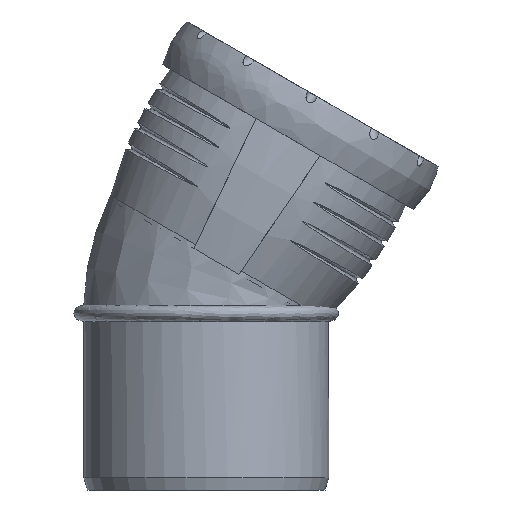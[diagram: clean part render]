
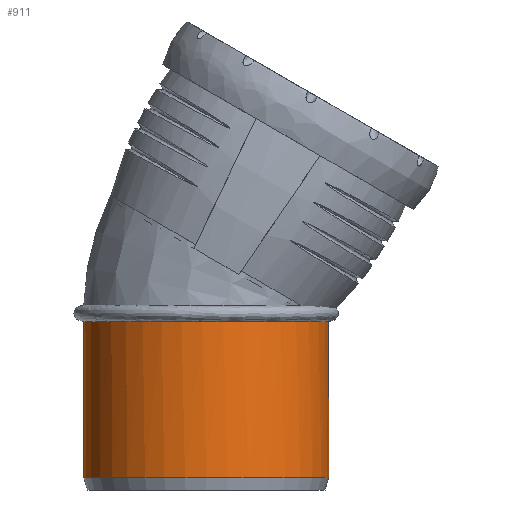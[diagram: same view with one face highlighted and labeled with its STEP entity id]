
A CAD part, front view. The second image highlights one B-rep face of the part: STEP entity #911.
In plain terms, the highlighted cylindrical face has radius 45.1 mm (diameter 90.2 mm), a full revolution.
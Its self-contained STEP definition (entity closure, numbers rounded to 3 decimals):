
#35=FACE_BOUND('',#190,.T.);
#60=CYLINDRICAL_SURFACE('',#979,45.1);
#79=CIRCLE('',#974,45.1);
#82=CIRCLE('',#980,45.1);
#83=CIRCLE('',#981,45.1);
#84=CIRCLE('',#982,45.1);
#85=CIRCLE('',#983,45.1);
#135=FACE_OUTER_BOUND('',#189,.T.);
#189=EDGE_LOOP('',(#600,#601,#602,#603));
#190=EDGE_LOOP('',(#604));
#358=VERTEX_POINT('',#1437);
#359=VERTEX_POINT('',#1470);
#361=VERTEX_POINT('',#1510);
#362=VERTEX_POINT('',#1512);
#363=VERTEX_POINT('',#1515);
#459=EDGE_CURVE('',#358,#359,#79,.T.);
#462=EDGE_CURVE('',#361,#358,#82,.T.);
#463=EDGE_CURVE('',#359,#362,#83,.T.);
#464=EDGE_CURVE('',#362,#361,#84,.T.);
#465=EDGE_CURVE('',#363,#363,#85,.T.);
#600=ORIENTED_EDGE('',*,*,#462,.T.);
#601=ORIENTED_EDGE('',*,*,#459,.T.);
#602=ORIENTED_EDGE('',*,*,#463,.T.);
#603=ORIENTED_EDGE('',*,*,#464,.T.);
#604=ORIENTED_EDGE('',*,*,#465,.F.);
#911=ADVANCED_FACE('',(#135,#35),#60,.T.);
#974=AXIS2_PLACEMENT_3D('',#1503,#1074,#1075);
#979=AXIS2_PLACEMENT_3D('',#1509,#1084,#1085);
#980=AXIS2_PLACEMENT_3D('',#1511,#1086,#1087);
#981=AXIS2_PLACEMENT_3D('',#1513,#1088,#1089);
#982=AXIS2_PLACEMENT_3D('',#1514,#1090,#1091);
#983=AXIS2_PLACEMENT_3D('',#1516,#1092,#1093);
#1074=DIRECTION('center_axis',(0.,0.,-1.));
#1075=DIRECTION('ref_axis',(1.,0.,0.));
#1084=DIRECTION('center_axis',(0.,0.,-1.));
#1085=DIRECTION('ref_axis',(0.,1.,0.));
#1086=DIRECTION('center_axis',(0.,0.,-1.));
#1087=DIRECTION('ref_axis',(1.,0.,0.));
#1088=DIRECTION('center_axis',(0.,0.,-1.));
#1089=DIRECTION('ref_axis',(1.,0.,0.));
#1090=DIRECTION('center_axis',(0.,0.,-1.));
#1091=DIRECTION('ref_axis',(1.,0.,0.));
#1092=DIRECTION('center_axis',(0.,0.,-1.));
#1093=DIRECTION('ref_axis',(1.,0.,0.));
#1437=CARTESIAN_POINT('',(37.798,24.603,62.));
#1470=CARTESIAN_POINT('',(37.798,-24.603,62.));
#1503=CARTESIAN_POINT('Origin',(0.,0.,62.));
#1509=CARTESIAN_POINT('Origin',(0.,0.,33.25));
#1510=CARTESIAN_POINT('',(0.,45.1,62.));
#1511=CARTESIAN_POINT('Origin',(0.,0.,62.));
#1512=CARTESIAN_POINT('',(-45.1,0.,62.));
#1513=CARTESIAN_POINT('Origin',(0.,0.,62.));
#1514=CARTESIAN_POINT('Origin',(0.,0.,62.));
#1515=CARTESIAN_POINT('',(0.,45.1,4.5));
#1516=CARTESIAN_POINT('Origin',(0.,0.,4.5));
